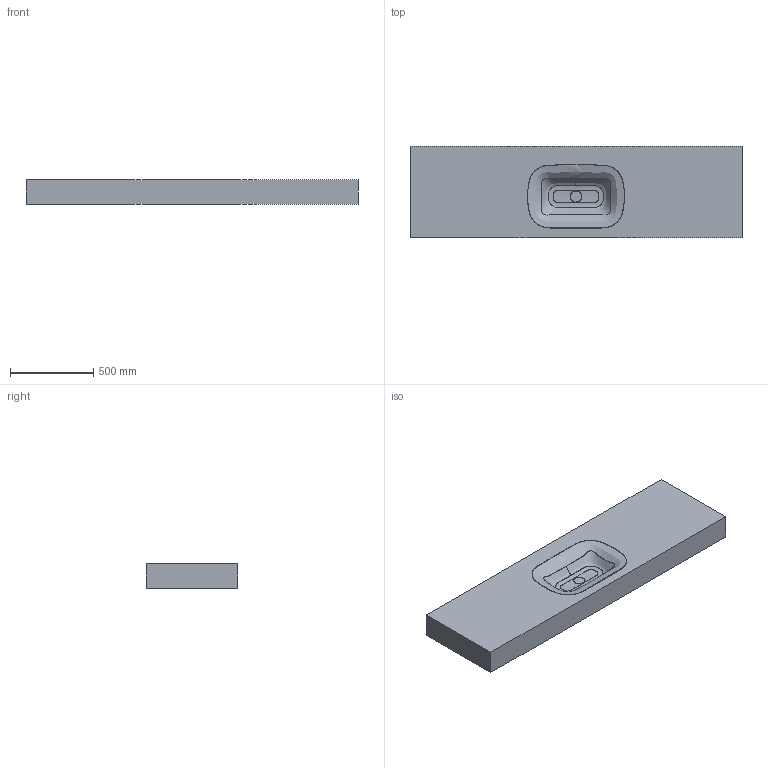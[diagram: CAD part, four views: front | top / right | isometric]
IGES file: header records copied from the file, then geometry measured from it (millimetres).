
Global section: file name: D:\Desktop\GIOVANNI\SCHEDE PRODOTTO\PIANI LAVABO\AQUATICO\3D\AQUATICO SYSTEM.igs; native system: Rhinoceros ( Jan 17 2018 ); preprocessor: Trout Lake IGES 012 Jan 17 2018; date: 230531.141146; units: millimetre
Bounding box: 2000 x 550 x 150 mm (x, y, z)
Surface area: 3058782 mm2 (no closed solid volume)
Topology: 0 solids, 0 shells, 14 faces, 3495 edges, 3490 vertices
Faces by surface type: bspline 14
